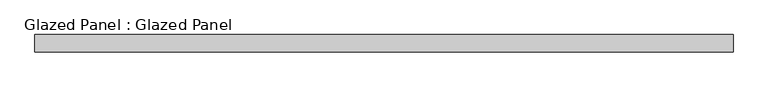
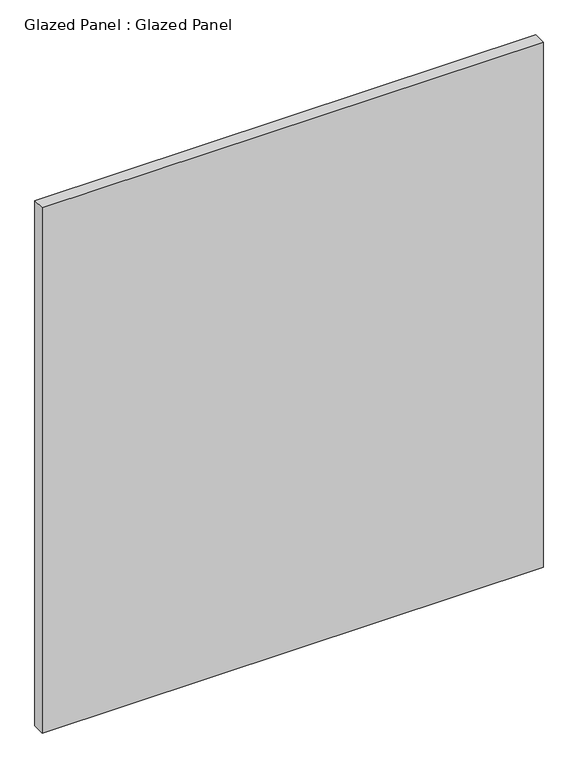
"""IFC4 building model written with IfcOpenShell, lengths in millimetres: plate geometry, Glazed Panel : Glazed Panel."""

from ifc_helpers import new_model, si_unit, origin, origin_with_axes, place, context, project, spatial, polyline, outline, extrude, source, transform, mapped, element, save


def glazed_panel_glazed_panel_51226729(model_context):
    return source(origin(), model_context, "Body", "SweptSolid", [
        extrude(outline(polyline([(507.0766667, 38.1), (-507.0766667, 38.1), (-507.0766667, 63.5), (507.0766667, 63.5), (507.0766667, 38.1)])), origin_with_axes(), (0.0, 0.0, 1.0), 1123.95),
    ])


if __name__ == "__main__":
    model = new_model("IFC4")
    model_context = context("Model", 3, world=origin())
    ifc_project = project(units=[si_unit("LENGTHUNIT", "METRE", prefix="MILLI")], contexts=[model_context])
    site = spatial("IfcSite", under=ifc_project)
    building = spatial("IfcBuilding", under=site)
    placement = place(None, origin())
    glazed_panel_glazed_panel_shape = glazed_panel_glazed_panel_51226729(model_context)
    element("IfcPlate", 1, ObjectType="Glazed Panel : Glazed Panel", at=placement, inside=building, context=model_context, shape_type="MappedRepresentation", body=[
        mapped(glazed_panel_glazed_panel_shape, transform((0.0, 0.0, 0.0), x_axis=(1.0, 0.0, 0.0), y_axis=(0.0, 1.0, 0.0), z_axis=(0.0, 0.0, 1.0))),
    ])
    save(model, "model.ifc")
